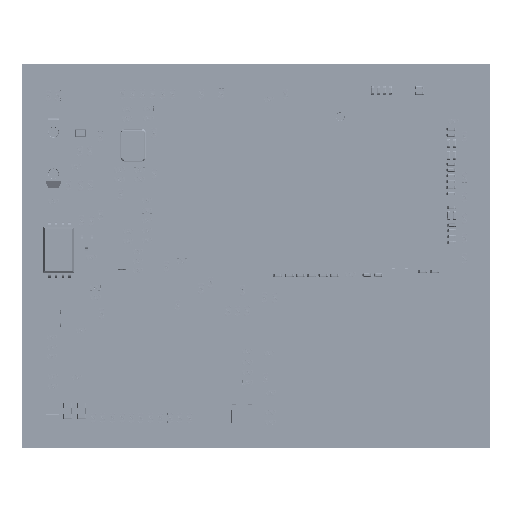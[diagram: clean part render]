
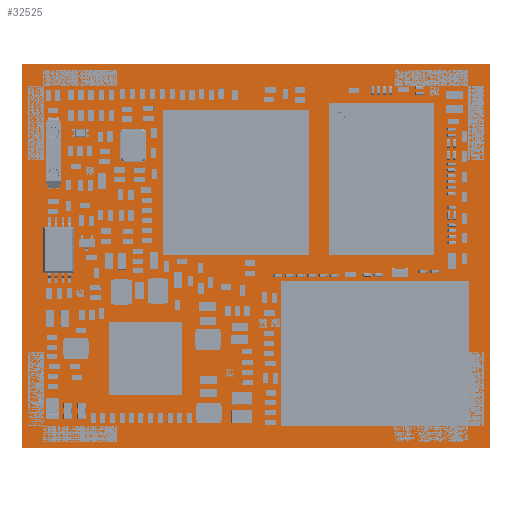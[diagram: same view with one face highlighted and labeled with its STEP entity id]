
A CAD part, top view. The second image highlights one B-rep face of the part: STEP entity #32525.
In plain terms, the highlighted planar face has unit normal (0, 0, 1).
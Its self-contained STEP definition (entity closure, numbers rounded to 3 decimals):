
#25325=FACE_OUTER_BOUND($,#27172,.F.);
#27172=EDGE_LOOP($,(#34442,#34443,#34444,#34445));
#29099=AXIS2_PLACEMENT_3D($,#60281,#53416,$);
#32053=PLANE($,#29099);
#32525=ADVANCED_FACE($,(#25325),#32053,.T.);
#34442=ORIENTED_EDGE($,*,*,#41237,.T.);
#34443=ORIENTED_EDGE($,*,*,#41238,.T.);
#34444=ORIENTED_EDGE($,*,*,#41239,.T.);
#34445=ORIENTED_EDGE($,*,*,#41240,.T.);
#41237=EDGE_CURVE($,#47400,#47401,#46031,.T.);
#41238=EDGE_CURVE($,#47401,#47402,#46032,.T.);
#41239=EDGE_CURVE($,#47402,#47403,#46033,.T.);
#41240=EDGE_CURVE($,#47403,#47400,#46034,.T.);
#44659=VECTOR($,#53504,37.);
#44660=VECTOR($,#53505,45.);
#44661=VECTOR($,#53506,37.);
#44662=VECTOR($,#53507,45.);
#46031=LINE($,#60280,#44659);
#46032=LINE($,#60281,#44660);
#46033=LINE($,#60282,#44661);
#46034=LINE($,#60283,#44662);
#47400=VERTEX_POINT($,#60280);
#47401=VERTEX_POINT($,#60281);
#47402=VERTEX_POINT($,#60282);
#47403=VERTEX_POINT($,#60283);
#53416=DIRECTION($,(0.,0.,1.));
#53504=DIRECTION($,(0.,-1.,0.));
#53505=DIRECTION($,(-1.,0.,0.));
#53506=DIRECTION($,(0.,1.,0.));
#53507=DIRECTION($,(1.,0.,0.));
#60280=CARTESIAN_POINT('',(45.,37.,0.001));
#60281=CARTESIAN_POINT('',(45.,0.,0.001));
#60282=CARTESIAN_POINT('',(0.,0.,0.001));
#60283=CARTESIAN_POINT('',(0.,37.,0.001));
